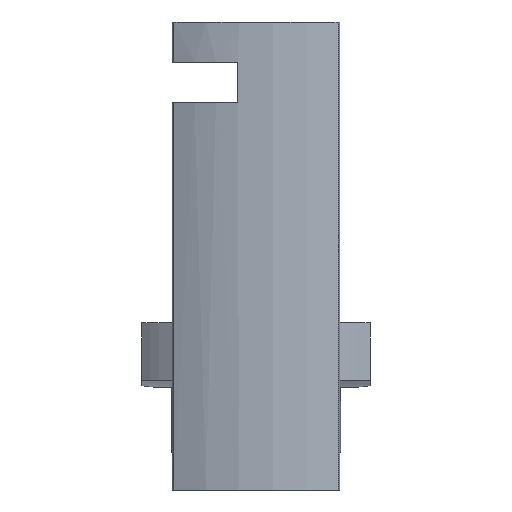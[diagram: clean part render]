
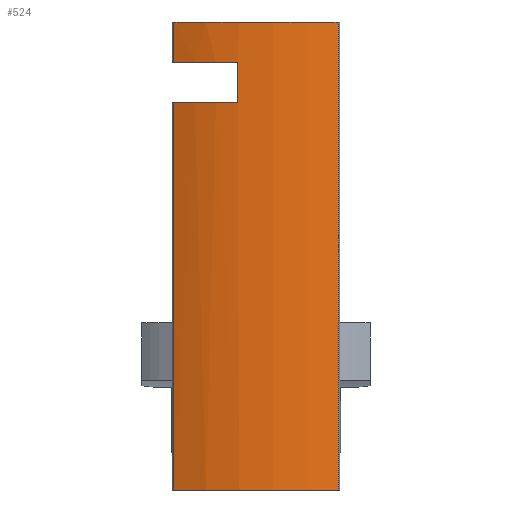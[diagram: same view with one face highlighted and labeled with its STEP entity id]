
A CAD part, left-side view. The second image highlights one B-rep face of the part: STEP entity #524.
In plain terms, the highlighted cylindrical face has radius 46.17 mm (diameter 92.34 mm), a partial arc.
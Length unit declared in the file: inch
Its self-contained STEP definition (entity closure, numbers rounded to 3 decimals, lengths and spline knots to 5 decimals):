
#173=FACE_OUTER_BOUND('',#681,.T.);
#316=LINE('',#3852,#434);
#317=LINE('',#3856,#435);
#318=LINE('',#3860,#436);
#319=LINE('',#3864,#437);
#434=VECTOR('',#2416,1.);
#435=VECTOR('',#2419,1.);
#436=VECTOR('',#2422,1.);
#437=VECTOR('',#2425,1.);
#524=ADVANCED_FACE('',(#173),#607,.T.);
#607=CYLINDRICAL_SURFACE('',#2184,1.81773);
#681=EDGE_LOOP('',(#1061,#1062,#1063,#1064,#1065,#1066,#1067,#1068));
#786=CIRCLE('',#2180,1.81773);
#787=CIRCLE('',#2181,1.81773);
#788=CIRCLE('',#2182,1.81773);
#789=CIRCLE('',#2183,1.81773);
#1061=ORIENTED_EDGE('',*,*,#1814,.F.);
#1062=ORIENTED_EDGE('',*,*,#1815,.T.);
#1063=ORIENTED_EDGE('',*,*,#1816,.T.);
#1064=ORIENTED_EDGE('',*,*,#1817,.F.);
#1065=ORIENTED_EDGE('',*,*,#1818,.T.);
#1066=ORIENTED_EDGE('',*,*,#1819,.T.);
#1067=ORIENTED_EDGE('',*,*,#1820,.F.);
#1068=ORIENTED_EDGE('',*,*,#1821,.F.);
#1566=VERTEX_POINT('',#3850);
#1567=VERTEX_POINT('',#3851);
#1568=VERTEX_POINT('',#3853);
#1569=VERTEX_POINT('',#3855);
#1570=VERTEX_POINT('',#3857);
#1571=VERTEX_POINT('',#3859);
#1572=VERTEX_POINT('',#3861);
#1573=VERTEX_POINT('',#3863);
#1814=EDGE_CURVE('',#1566,#1567,#786,.T.);
#1815=EDGE_CURVE('',#1566,#1568,#316,.T.);
#1816=EDGE_CURVE('',#1568,#1569,#787,.T.);
#1817=EDGE_CURVE('',#1570,#1569,#317,.T.);
#1818=EDGE_CURVE('',#1570,#1571,#788,.T.);
#1819=EDGE_CURVE('',#1571,#1572,#318,.T.);
#1820=EDGE_CURVE('',#1573,#1572,#789,.T.);
#1821=EDGE_CURVE('',#1567,#1573,#319,.T.);
#2180=AXIS2_PLACEMENT_3D('',#3849,#2414,#2415);
#2181=AXIS2_PLACEMENT_3D('',#3854,#2417,#2418);
#2182=AXIS2_PLACEMENT_3D('',#3858,#2420,#2421);
#2183=AXIS2_PLACEMENT_3D('',#3862,#2423,#2424);
#2184=AXIS2_PLACEMENT_3D('',#3865,#2426,#2427);
#2414=DIRECTION('',(0.,0.,-1.));
#2415=DIRECTION('',(1.,0.,0.));
#2416=DIRECTION('',(0.,0.,-1.));
#2417=DIRECTION('',(0.,0.,-1.));
#2418=DIRECTION('',(1.,0.,0.));
#2419=DIRECTION('',(0.,0.,1.));
#2420=DIRECTION('',(0.,0.,1.));
#2421=DIRECTION('',(-1.,0.,0.));
#2422=DIRECTION('',(0.,0.,1.));
#2423=DIRECTION('',(0.,0.,1.));
#2424=DIRECTION('',(-1.,0.,0.));
#2425=DIRECTION('',(0.,0.,1.));
#2426=DIRECTION('',(0.,0.,-1.));
#2427=DIRECTION('',(1.,0.,0.));
#3849=CARTESIAN_POINT('',(0.0432,0.,3.74287));
#3850=CARTESIAN_POINT('',(-1.76748,0.15996,3.74287));
#3851=CARTESIAN_POINT('',(-1.6265,0.7185,3.74287));
#3852=CARTESIAN_POINT('',(-1.76748,0.15996,1.4626));
#3853=CARTESIAN_POINT('',(-1.76748,0.15996,3.38913));
#3854=CARTESIAN_POINT('',(0.0432,0.,3.38913));
#3855=CARTESIAN_POINT('',(-1.6265,0.7185,3.38913));
#3856=CARTESIAN_POINT('',(-1.6265,0.7185,1.4626));
#3857=CARTESIAN_POINT('',(-1.6265,0.7185,0.));
#3858=CARTESIAN_POINT('',(0.0432,0.,0.));
#3859=CARTESIAN_POINT('',(-1.6265,-0.7185,0.));
#3860=CARTESIAN_POINT('',(-1.6265,-0.7185,1.4626));
#3861=CARTESIAN_POINT('',(-1.6265,-0.7185,4.09661));
#3862=CARTESIAN_POINT('',(0.0432,0.,4.09661));
#3863=CARTESIAN_POINT('',(-1.6265,0.7185,4.09661));
#3864=CARTESIAN_POINT('',(-1.6265,0.7185,1.4626));
#3865=CARTESIAN_POINT('',(0.0432,0.,1.4626));
